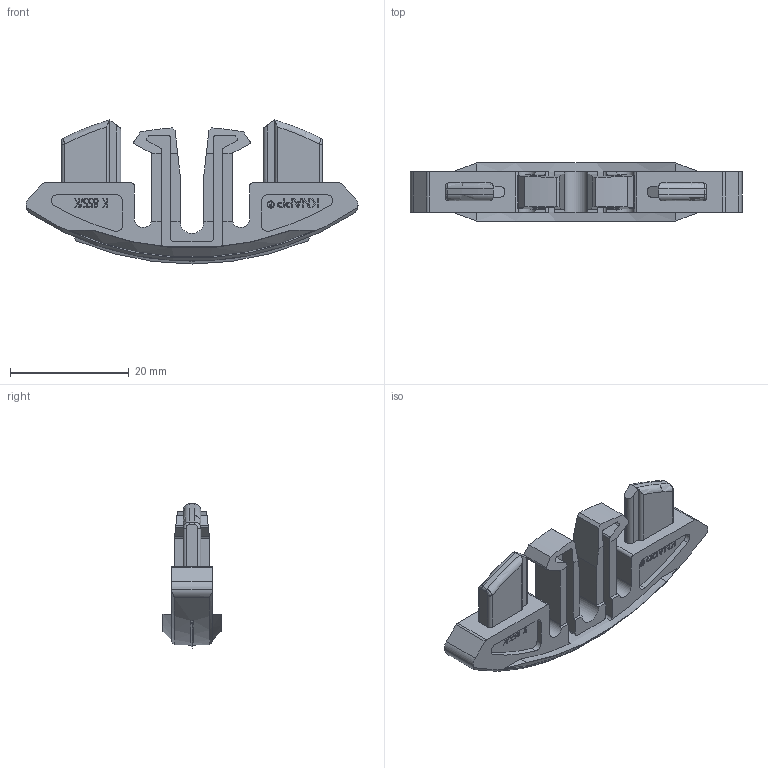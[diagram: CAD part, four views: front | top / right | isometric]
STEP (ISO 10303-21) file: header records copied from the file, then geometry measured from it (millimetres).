
FILE_DESCRIPTION(/* description */ ('Unknown'),/* implementation_level */ '2;1');
FILE_NAME(/* name */ 'K855_P001_V02_FIYU Fast 14 Spreitzteil',/* time_stamp */ '2025-06-26T09:06:40+02:00',/* author */ ('Unknown'),/* organization */ ('Unknown'),/* preprocessor_version */ 'ST-DEVELOPER v19.4',/* originating_system */ 'Solid Edge',/* authorisation */ 'Unknown');
FILE_SCHEMA (('AUTOMOTIVE_DESIGN {1 0 10303 214 3 1 1}'));
Length unit declared in the file: millimetre
Products named in the file (1): K855_P001_V02_FIYU Fast 14 Spreitzteil
Bounding box: 56 x 9.8 x 24.31 mm (x, y, z)
Volume: 3914.5 mm3; surface area: 3763.2 mm2
Topology: 1 solids, 1 shells, 419 faces, 1125 edges, 746 vertices
Faces by surface type: plane 295, cylinder 76, bspline 38, cone 6, torus 4
Entity records: 14192 total; most frequent: CARTESIAN_POINT 4127, ORIENTED_EDGE 2242, DIRECTION 1802, EDGE_CURVE 1121, VERTEX_POINT 746, LINE 684, VECTOR 684, AXIS2_PLACEMENT_3D 559
